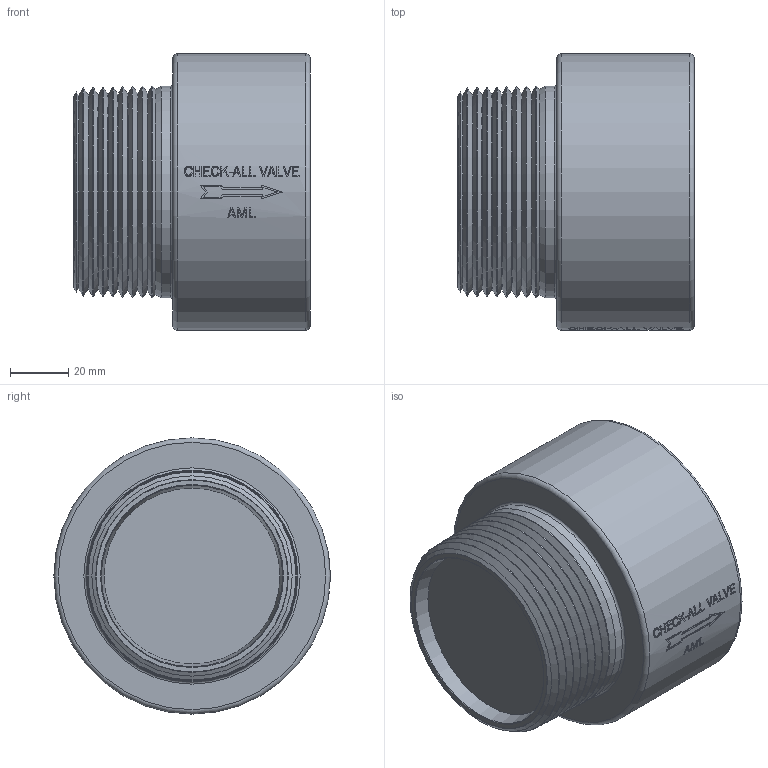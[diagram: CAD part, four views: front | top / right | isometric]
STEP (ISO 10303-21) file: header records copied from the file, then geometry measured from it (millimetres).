
FILE_DESCRIPTION(/* description */ ('Unknown'),/* implementation_level */ '2;1');
FILE_NAME(/* name */ 'AMLXXOR.500XX-WEB',/* time_stamp */ '2022-10-03T09:07:13-05:00',/* author */ ('Unknown'),/* organization */ ('Unknown'),/* preprocessor_version */ 'ST-DEVELOPER v18.102',/* originating_system */ 'Solid Edge',/* authorisation */ 'Unknown');
FILE_SCHEMA (('AUTOMOTIVE_DESIGN {1 0 10303 214 3 1 1}'));
Length unit declared in the file: inch
Products named in the file (1): AMLXXOR.500XX-WEB
Bounding box: 81.43 x 95.25 x 95.25 mm (x, y, z)
Volume: 373664.6 mm3; surface area: 55614.7 mm2
Topology: 1 solids, 2 shells, 285 faces, 704 edges, 448 vertices
Faces by surface type: plane 164, cone 69, cylinder 41, torus 7, bspline 4
Full cylindrical faces by diameter (mm): 39.497 x1, 44.45 x2, 56.109 x1, 66.677 x4, 73.025 x2, 95.25 x1
Entity records: 11040 total; most frequent: CARTESIAN_POINT 2995, ORIENTED_EDGE 1196, DIRECTION 1142, EDGE_CURVE 598, AXIS2_PLACEMENT_3D 462, VERTEX_POINT 430, EDGE_LOOP 400, FACE_BOUND 400
